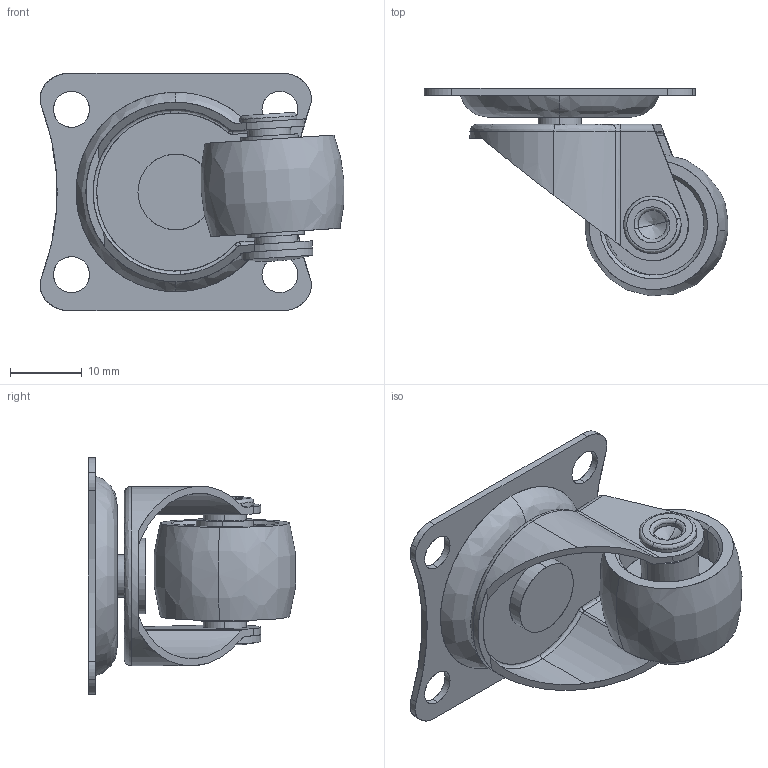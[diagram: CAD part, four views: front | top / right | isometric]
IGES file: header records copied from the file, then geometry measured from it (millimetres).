
Start section: SolidWorks IGES file using analytic representation for surfaces
Global section: file name: D:\EN COURS PROF\caster-wheel-4-1.snapshot.2\Caster Wheel d=20mm.IGS; native system: SolidWorks 2016; preprocessor: SolidWorks 2016; author: miche; date: 190214.194633; units: millimetre
Bounding box: 42.3 x 28.85 x 33 mm (x, y, z)
Surface area: 8914.7 mm2 (no closed solid volume)
Topology: 0 solids, 0 shells, 161 faces, 2812 edges, 2803 vertices
Faces by surface type: revolution 92, bspline 69
